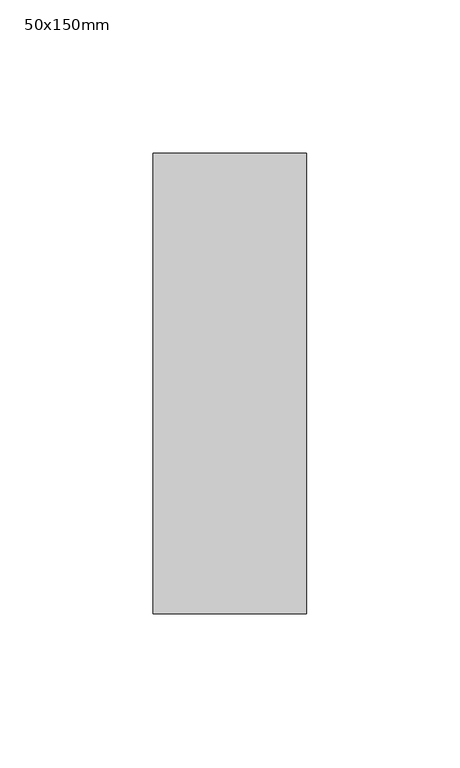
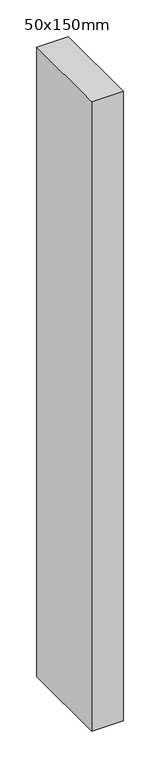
"""IFC4 building model written with IfcOpenShell, lengths in millimetres: member geometry, 長方形マリオン : 50x150mm."""

import ifcopenshell
import ifcopenshell.guid

model = None  # the IFC model being written
_history = None  # IfcOwnerHistory: only IFC2X3 demands one
_inside = {}  # id of a spatial element -> (the spatial element, [elements in it])
_under = {}  # id of a project, library or spatial element -> (it, [spatial elements below it])
_declared = {}  # id of a project -> (the project, [libraries it declares])
_typed = {}  # id of a type object -> (the type object, [elements of that type])
_made_of = {}  # id of a material, layer set ... -> (it, [elements and type objects made of it])


def new_model(schema):
    """Start an empty IFC model of exactly this schema.

    Asked for "IFC4X3", IfcOpenShell would pick the latest addendum, in which some entities
    have other attributes; the version numbers below select the first issue.
    IFC2X3 requires an IfcOwnerHistory on every rooted entity: one is made here for all.
    """
    global model, _history
    if schema == "IFC4X3":
        model = ifcopenshell.file(schema_version=(4, 3, 0, 0))
    else:
        model = ifcopenshell.file(schema=schema)
    _inside.clear()
    _under.clear()
    _declared.clear()
    _typed.clear()
    _made_of.clear()
    _history = None
    if model.schema == "IFC2X3":
        org = make("IfcOrganization", Name="unknown")
        user = make(
            "IfcPersonAndOrganization",
            ThePerson=make("IfcPerson", FamilyName="unknown"),
            TheOrganization=org,
        )
        app = make(
            "IfcApplication",
            ApplicationDeveloper=org,
            Version="unknown",
            ApplicationFullName="unknown",
            ApplicationIdentifier="unknown",
        )
        _history = make(
            "IfcOwnerHistory",
            OwningUser=user,
            OwningApplication=app,
            ChangeAction="ADDED",
            CreationDate=0,
        )
    return model


def make(cls, **values):
    """One entity of the class cls with the attributes given. An attribute that is None is left unset."""
    return model.create_entity(
        cls, **{name: value for name, value in values.items() if value is not None}
    )


def rooted(cls, **values):
    """An entity with a GlobalId (a new one), such as an element, a storey or a relation."""
    return make(cls, GlobalId=ifcopenshell.guid.new(), OwnerHistory=_history, **values)


def si_unit(unit_type, name, prefix=None):
    """IfcSIUnit, for example si_unit("LENGTHUNIT", "METRE", prefix="MILLI")."""
    return make("IfcSIUnit", UnitType=unit_type, Prefix=prefix, Name=name)


def assignment(units):
    """IfcUnitAssignment: the units of a project."""
    return None if units is None else make("IfcUnitAssignment", Units=units)


def point(xyz):
    """IfcCartesianPoint."""
    return None if xyz is None else make("IfcCartesianPoint", Coordinates=xyz)


def direction(xyz):
    """IfcDirection."""
    return None if xyz is None else make("IfcDirection", DirectionRatios=xyz)


def frame(location, z_axis=None, x_axis=None):
    """IfcAxis2Placement3D, a coordinate frame: its origin and axes. An axis left out is left unset."""
    return make(
        "IfcAxis2Placement3D",
        Location=point(location),
        Axis=direction(z_axis),
        RefDirection=direction(x_axis),
    )


def origin():
    """The frame at (0, 0, 0) with its axes left unset."""
    return frame((0.0, 0.0, 0.0))


def place(relative_to, where):
    """IfcLocalPlacement: puts the frame where relative to a parent placement (None: the world)."""
    return make(
        "IfcLocalPlacement", PlacementRelTo=relative_to, RelativePlacement=where
    )


def context(
    kind, dimensions, precision=None, world=None, true_north=None, identifier=None
):
    """IfcGeometricRepresentationContext, for example the 3D "Model" context."""
    return make(
        "IfcGeometricRepresentationContext",
        ContextIdentifier=identifier,
        ContextType=kind,
        CoordinateSpaceDimension=dimensions,
        Precision=precision,
        WorldCoordinateSystem=world,
        TrueNorth=true_north,
    )


def project(units=None, contexts=None):
    """IfcProject with its units and contexts."""
    return rooted(
        "IfcProject",
        Name="project",
        RepresentationContexts=contexts,
        UnitsInContext=assignment(units),
    )


def spatial(cls, under=None, at=None, **own):
    """A site, building, storey or space (cls), placed at a placement, below another one or the project."""
    s = rooted(cls, ObjectPlacement=at, **own)
    if under is not None:
        _under.setdefault(under.id(), (under, []))[1].append(s)
    return s


def polyline(points):
    """IfcPolyline through the points."""
    return make("IfcPolyline", Points=[point(p) for p in points])


def outline(outer, holes=None, kind="AREA"):
    """IfcArbitraryClosedProfileDef: a profile drawn as a closed curve; with holes, ...WithVoids."""
    if holes is None:
        return make("IfcArbitraryClosedProfileDef", ProfileType=kind, OuterCurve=outer)
    return make(
        "IfcArbitraryProfileDefWithVoids",
        ProfileType=kind,
        OuterCurve=outer,
        InnerCurves=holes,
    )


def extrude(swept, where, along, depth):
    """IfcExtrudedAreaSolid: the profile swept, set in the frame where, extruded along a direction by depth."""
    return make(
        "IfcExtrudedAreaSolid",
        SweptArea=swept,
        Position=where,
        ExtrudedDirection=direction(along),
        Depth=depth,
    )


def shape(context_of_items, identifier, shape_type, items):
    """IfcShapeRepresentation: the items that make up one representation, for example the "Body"."""
    return make(
        "IfcShapeRepresentation",
        ContextOfItems=context_of_items,
        RepresentationIdentifier=identifier,
        RepresentationType=shape_type,
        Items=items,
    )


def source(mapping_origin, context_of_items, identifier, shape_type, items):
    """IfcRepresentationMap: a shape defined once, which mapped items show again and again."""
    return make(
        "IfcRepresentationMap",
        MappingOrigin=mapping_origin,
        MappedRepresentation=shape(context_of_items, identifier, shape_type, items),
    )


def transform(
    local_origin,
    x_axis=None,
    y_axis=None,
    z_axis=None,
    scale=None,
    scale2=None,
    scale3=None,
    uniform=True,
):
    """IfcCartesianTransformationOperator3D, or its non-uniform kind. x_axis, y_axis, z_axis: its Axis1, 2, 3."""
    if uniform:
        return make(
            "IfcCartesianTransformationOperator3D",
            Axis1=direction(x_axis),
            Axis2=direction(y_axis),
            LocalOrigin=point(local_origin),
            Scale=scale,
            Axis3=direction(z_axis),
        )
    return make(
        "IfcCartesianTransformationOperator3DnonUniform",
        Axis1=direction(x_axis),
        Axis2=direction(y_axis),
        LocalOrigin=point(local_origin),
        Scale=scale,
        Axis3=direction(z_axis),
        Scale2=scale2,
        Scale3=scale3,
    )


def mapped(mapping_source, mapping_target):
    """IfcMappedItem: shows the shape of a source again, moved by a transform."""
    return make(
        "IfcMappedItem", MappingSource=mapping_source, MappingTarget=mapping_target
    )


def made_of(thing, what):
    """Note that an element or type object is made of a material, layer set ...; save() writes the relation."""
    if what is not None:
        _made_of.setdefault(what.id(), (what, []))[1].append(thing)
    return thing


def element(
    cls,
    number,
    at=None,
    inside=None,
    cuts=None,
    type_object=None,
    material=None,
    context=None,
    identifier="Body",
    shape_type=None,
    held_by="IfcProductDefinitionShape",
    body=None,
    shapes=None,
    **own,
):
    """One element of the class cls, such as IfcWall. Its Tag is "e" and its number.

    at: its placement. inside: the storey or other place that contains it. cuts: it is an
    opening in that element (IfcRelVoidsElement). A single representation is given by context,
    identifier, shape_type and body (its items); several are given by shapes. held_by: the class
    of the entity that holds the representations. save() writes the other relations.
    """
    e = rooted(cls, Tag="e%d" % number, ObjectPlacement=at, **own)
    if body is not None:
        shapes = [shape(context, identifier, shape_type, body)]
    if shapes is not None:
        e.Representation = make(held_by, Representations=shapes)
    if inside is not None:
        _inside.setdefault(inside.id(), (inside, []))[1].append(e)
    if cuts is not None:
        rooted(
            "IfcRelVoidsElement", RelatingBuildingElement=cuts, RelatedOpeningElement=e
        )
    if type_object is not None:
        _typed.setdefault(type_object.id(), (type_object, []))[1].append(e)
    return made_of(e, material)


def aggregate(whole, parts):
    """IfcRelAggregates: a whole, such as a stair, and the parts it consists of."""
    return rooted("IfcRelAggregates", RelatingObject=whole, RelatedObjects=parts)


def save(model, path):
    """Write the relations noted so far, then the file.

    IfcRelAggregates (storeys below a building ...), IfcRelContainedInSpatialStructure (elements
    in a storey), IfcRelDefinesByType, IfcRelAssociatesMaterial and IfcRelDeclares: one each for
    every whole, place, type object, material and project.
    """
    for whole, parts in _under.values():
        aggregate(whole, parts)
    for where, things in _inside.values():
        rooted(
            "IfcRelContainedInSpatialStructure",
            RelatedElements=things,
            RelatingStructure=where,
        )
    for kind, things in _typed.values():
        rooted("IfcRelDefinesByType", RelatedObjects=things, RelatingType=kind)
    for what, things in _made_of.values():
        rooted("IfcRelAssociatesMaterial", RelatedObjects=things, RelatingMaterial=what)
    for by, libraries in _declared.values():
        rooted("IfcRelDeclares", RelatingContext=by, RelatedDefinitions=libraries)
    model.write(path)


def member_50x150mm_1a36453b(model_context):
    return source(origin(), model_context, "Body", "SweptSolid", [
        extrude(outline(polyline([(0.0, 75.0), (0.0, -75.0), (-50.0, -75.0), (-50.0, 75.0), (0.0, 75.0)])), frame((0.0, 0.0, -1050.0), z_axis=(0.0, 0.0, 1.0), x_axis=(1.0, 0.0, 0.0)), (0.0, 0.0, 1.0), 1050.0),
    ])


if __name__ == "__main__":
    model = new_model("IFC4")
    model_context = context("Model", 3, world=origin())
    ifc_project = project(units=[si_unit("LENGTHUNIT", "METRE", prefix="MILLI")], contexts=[model_context])
    site = spatial("IfcSite", under=ifc_project)
    building = spatial("IfcBuilding", under=site)
    placement = place(None, origin())
    member_50x150mm_shape = member_50x150mm_1a36453b(model_context)
    element("IfcMember", 1, ObjectType="長方形マリオン : 50x150mm", at=placement, inside=building, context=model_context, shape_type="MappedRepresentation", body=[
        mapped(member_50x150mm_shape, transform((0.0, 0.0, 0.0), x_axis=(1.0, 0.0, 0.0), y_axis=(0.0, 1.0, 0.0), z_axis=(0.0, 0.0, 1.0))),
    ])
    save(model, "model.ifc")
